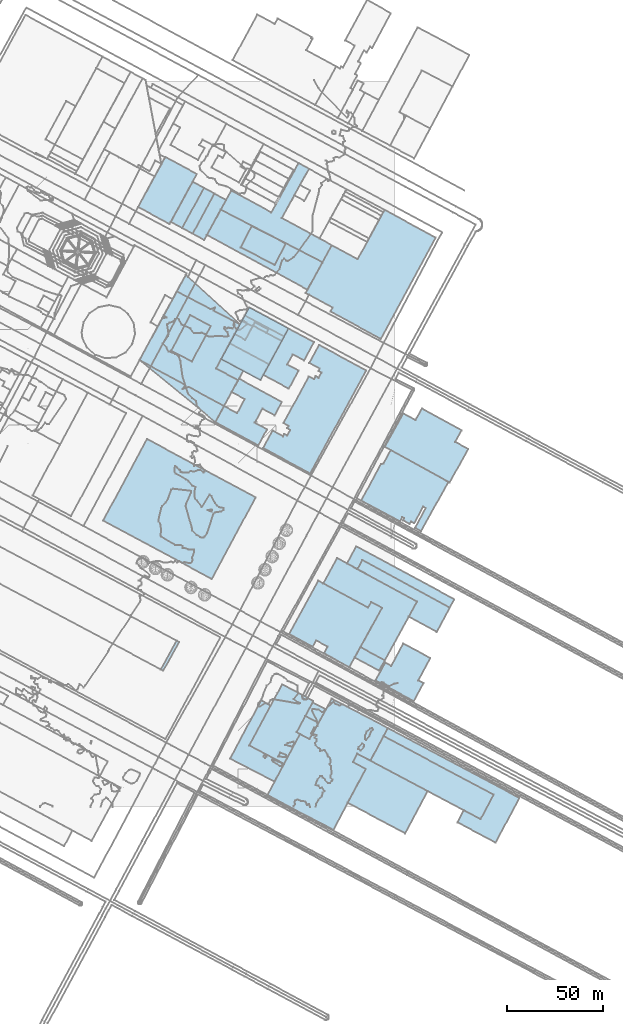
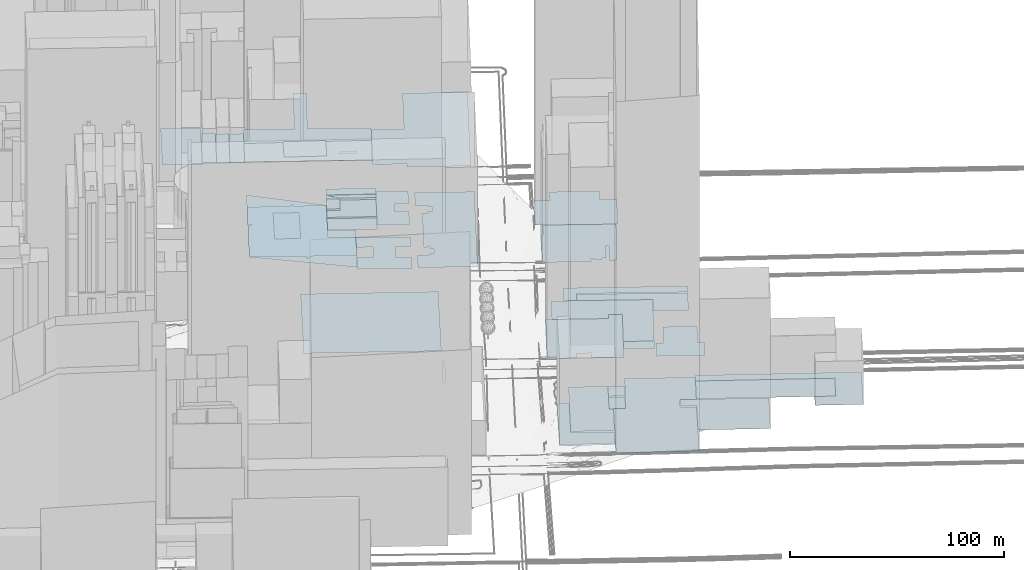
# Not in any storey, part 13 of 80: 39 footings.
"""IFC4 building model written with IfcOpenShell, lengths in metres."""

from ifc_helpers import new_model, si_unit, frame, origin_with_axes, place, context, subcontext, project, spatial, polygons, element, save


model = new_model("IFC4")

# Units and contexts
model_context = context("Model", 3, precision=1e-05, world=origin_with_axes())
body_context = subcontext(model_context, "Body", "Model", "MODEL_VIEW")
ifc_project = project(units=[si_unit("AREAUNIT", "SQUARE_METRE"), si_unit("LENGTHUNIT", "METRE")], contexts=[model_context])

# Sites, building
site_1_placement = place(None, origin_with_axes())
site_1 = spatial("IfcSite", under=ifc_project, at=site_1_placement, Name="Topoexport Site")
site_2_placement = place(site_1_placement, origin_with_axes())
site_2 = spatial("IfcSite", under=site_1, at=site_2_placement, Name="TPX_BATIMENTS")
building_1_placement = place(site_2_placement, frame((366.2645429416, 36.6542156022, 20.5453743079), z_axis=(0.0, 0.0, 1.0), x_axis=(1.0, 0.0, 0.0)))
building_1 = spatial("IfcBuilding", under=site_2, at=building_1_placement, Name="Batiment 0", CompositionType="ELEMENT")

# Footing
footing_1_placement = place(None, frame((366.2645429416, 36.6542156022, 20.5453743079), z_axis=(0.0, 0.0, 1.0), x_axis=(1.0, 0.0, 0.0)))
element("IfcFooting", 1, at=footing_1_placement, inside=building_1, Name="Sol 0", context=body_context, shape_type="Tessellation", body=[
    polygons([(0.0, 0.0, 0.0), (57.6510256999, -30.6476367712, 0.0), (50.7770092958, -43.4731624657, 0.0), (41.9344578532, -38.7800531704, 0.0), (38.741565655, -45.1344526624, 0.0), (58.6609342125, -55.7269742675, 0.0), (71.0847208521, -32.3451003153, 0.0), (2.2468139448, 4.2339315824, 0.0)], [[[2, 1, 8]], [[5, 4, 3]], [[2, 8, 7]], [[6, 5, 3]], [[2, 7, 6]], [[6, 3, 2]]]),
])

# Building
building_2_placement = place(site_2_placement, frame((351.223740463, 77.768312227, 19.2455414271), z_axis=(0.0, 0.0, 1.0), x_axis=(1.0, 0.0, 0.0)))
building_2 = spatial("IfcBuilding", under=site_2, at=building_2_placement, Name="Batiment 1", CompositionType="ELEMENT")

# Footing
footing_2_placement = place(None, frame((351.223740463, 77.768312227, 19.2455414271), z_axis=(0.0, 0.0, 1.0), x_axis=(1.0, 0.0, 0.0)))
element("IfcFooting", 2, at=footing_2_placement, inside=building_2, Name="Sol 0", context=body_context, shape_type="Tessellation", body=[
    polygons([(0.0, 0.0, 0.0), (12.6918312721, -6.868784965, 0.0), (15.6589919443, -1.4274175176, 0.0), (2.9670376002, 5.4524630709, 0.0)], [[[2, 1, 4]], [[4, 3, 2]]]),
])

# Building
building_3_placement = place(site_2_placement, frame((362.0676322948, 65.7598579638, 18.6080020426), z_axis=(0.0, 0.0, 1.0), x_axis=(1.0, 0.0, 0.0)))
building_3 = spatial("IfcBuilding", under=site_2, at=building_3_placement, Name="Batiment 2", CompositionType="ELEMENT")

# Footing
footing_3_placement = place(None, frame((362.0676322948, 65.7598579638, 18.6080020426), z_axis=(0.0, 0.0, 1.0), x_axis=(1.0, 0.0, 0.0)))
element("IfcFooting", 3, at=footing_3_placement, inside=building_3, Name="Sol 0", context=body_context, shape_type="Tessellation", body=[
    polygons([(0.0, 0.0, 0.0), (20.0566144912, -10.8019749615, 0.0), (25.0968062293, -1.4284483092, 0.0), (22.3613697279, 0.0495845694, 0.0), (28.6575999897, 11.7470203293, 0.0), (14.5135056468, 19.3648949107, 0.0), (8.2419351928, 7.7232700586, 0.0), (5.0818940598, 9.4184075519, 0.0)], [[[2, 1, 8]], [[4, 3, 2]], [[6, 5, 4]], [[2, 8, 7]], [[6, 4, 2]], [[2, 7, 6]]]),
])

# Building
building_4_placement = place(site_2_placement, frame((347.1381641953, 127.0369642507, 18.5508047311), z_axis=(0.0, 0.0, 1.0), x_axis=(1.0, 0.0, 0.0)))
building_4 = spatial("IfcBuilding", under=site_2, at=building_4_placement, Name="Batiment 3", CompositionType="ELEMENT")

# Footing
footing_4_placement = place(None, frame((347.1381641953, 127.0369642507, 18.5508047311), z_axis=(0.0, 0.0, 1.0), x_axis=(1.0, 0.0, 0.0)))
element("IfcFooting", 4, at=footing_4_placement, inside=building_4, Name="Sol 0", context=body_context, shape_type="Tessellation", body=[
    polygons([(0.0, 0.0, 0.0), (5.3954967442, -3.0124802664, 0.0), (8.0571999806, 1.8369054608, 0.0), (53.8061372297, -23.131939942, 0.0), (56.1693942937, -18.7523097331, 0.0), (4.9095321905, 8.9945052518, 0.0)], [[[2, 1, 6]], [[5, 4, 3]], [[3, 2, 6]], [[6, 5, 3]]]),
])

# Building
building_5_placement = place(site_2_placement, frame((352.5336609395, 124.0244839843, 18.1637870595), z_axis=(0.0, 0.0, 1.0), x_axis=(1.0, 0.0, 0.0)))
building_5 = spatial("IfcBuilding", under=site_2, at=building_5_placement, Name="Batiment 4", CompositionType="ELEMENT")

# Footing
footing_5_placement = place(None, frame((352.5336609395, 124.0244839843, 18.1637870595), z_axis=(0.0, 0.0, 1.0), x_axis=(1.0, 0.0, 0.0)))
element("IfcFooting", 5, at=footing_5_placement, inside=building_5, Name="Sol 0", context=body_context, shape_type="Tessellation", body=[
    polygons([(0.0, 0.0, 0.0), (31.2631371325, -16.9997120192, 0.0), (26.9895697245, -24.7877841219, 0.0), (41.5765562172, -32.7446614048, 0.0), (48.4106404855, -20.1194596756, 0.0), (2.6617032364, 4.8493857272, 0.0)], [[[2, 1, 6]], [[4, 3, 2]], [[2, 6, 5]], [[5, 4, 2]]]),
])

# Building
building_6_placement = place(site_2_placement, frame((334.7408311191, 116.6007819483, 18.3898649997), z_axis=(0.0, 0.0, 1.0), x_axis=(1.0, 0.0, 0.0)))
building_6 = spatial("IfcBuilding", under=site_2, at=building_6_placement, Name="Batiment 5", CompositionType="ELEMENT")

# Footing
footing_6_placement = place(None, frame((334.7408311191, 116.6007819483, 18.3898649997), z_axis=(0.0, 0.0, 1.0), x_axis=(1.0, 0.0, 0.0)))
element("IfcFooting", 6, at=footing_6_placement, inside=building_6, Name="Sol 0", context=body_context, shape_type="Tessellation", body=[
    polygons([(0.0, 0.0, 0.0), (23.4383723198, -12.7055475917, 0.0), (25.0583062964, -9.7334756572, 0.0), (30.6991136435, -12.7874983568, 0.0), (19.4499469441, -33.3800066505, 0.0), (32.1419012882, -40.259887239, 0.0), (49.0559669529, -9.5760099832, 0.0), (7.2237486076, 13.24030801, 0.0)], [[[2, 1, 8]], [[6, 5, 4]], [[3, 2, 8]], [[7, 6, 4]], [[3, 8, 7]], [[7, 4, 3]]]),
])

# Building
building_7_placement = place(site_2_placement, frame((316.8661601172, 90.1024902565, 18.3898649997), z_axis=(0.0, 0.0, 1.0), x_axis=(1.0, 0.0, 0.0)))
building_7 = spatial("IfcBuilding", under=site_2, at=building_7_placement, Name="Batiment 6", CompositionType="ELEMENT")

# Footing
footing_7_placement = place(None, frame((316.8661601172, 90.1024902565, 18.3898649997), z_axis=(0.0, 0.0, 1.0), x_axis=(1.0, 0.0, 0.0)))
element("IfcFooting", 7, at=footing_7_placement, inside=building_7, Name="Sol 0", context=body_context, shape_type="Tessellation", body=[
    polygons([(0.0, 0.0, 0.0), (12.2588560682, -6.6629415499, 0.0), (14.07724135, -3.3332932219, 0.0), (20.1343500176, -6.6156371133, 0.0), (18.1999973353, -10.1353758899, 0.0), (31.5123618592, -17.3744372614, 0.0), (48.5737846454, 13.710793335, 0.0), (42.9329772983, 16.7648160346, 0.0), (41.3130433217, 13.7927441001, 0.0), (15.300279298, 27.9227073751, 0.0)], [[[2, 1, 10]], [[6, 5, 4]], [[8, 7, 6]], [[3, 2, 10]], [[9, 8, 6]], [[3, 10, 9]], [[9, 6, 4]], [[4, 3, 9]]]),
])

# Building
building_8_placement = place(site_2_placement, frame((325.3175902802, 47.212952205, 19.8238031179), z_axis=(0.0, 0.0, 1.0), x_axis=(1.0, 0.0, 0.0)))
building_8 = spatial("IfcBuilding", under=site_2, at=building_8_placement, Name="Batiment 7", CompositionType="ELEMENT")

# Footing
footing_8_placement = place(None, frame((325.3175902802, 47.212952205, 19.8238031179), z_axis=(0.0, 0.0, 1.0), x_axis=(1.0, 0.0, 0.0)))
element("IfcFooting", 8, at=footing_8_placement, inside=building_8, Name="Sol 0", context=body_context, shape_type="Tessellation", body=[
    polygons([(0.0, 0.0, 0.0), (6.8126112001, -3.6399257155, 0.0), (10.7830119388, 3.3674274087, 0.0), (3.893923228, 7.050867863, 0.0)], [[[2, 1, 4]], [[4, 3, 2]]]),
])

# Building
building_9_placement = place(site_2_placement, frame((320.7317155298, 38.6885317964, 19.3320157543), z_axis=(0.0, 0.0, 1.0), x_axis=(1.0, 0.0, 0.0)))
building_9 = spatial("IfcBuilding", under=site_2, at=building_9_placement, Name="Batiment 8", CompositionType="ELEMENT")

# Footing
footing_9_placement = place(None, frame((320.7317155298, 38.6885317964, 19.3320157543), z_axis=(0.0, 0.0, 1.0), x_axis=(1.0, 0.0, 0.0)))
element("IfcFooting", 9, at=footing_9_placement, inside=building_9, Name="Sol 0", context=body_context, shape_type="Tessellation", body=[
    polygons([(0.0, 0.0, 0.0), (6.8210570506, -3.6398316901, 0.0), (11.3984859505, 4.884494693, 0.0), (4.5858747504, 8.5244204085, 0.0)], [[[2, 1, 4]], [[4, 3, 2]]]),
])

# Building
building_10_placement = place(site_2_placement, frame((295.9848400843, 31.8056900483, 19.3320157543), z_axis=(0.0, 0.0, 1.0), x_axis=(1.0, 0.0, 0.0)))
building_10 = spatial("IfcBuilding", under=site_2, at=building_10_placement, Name="Batiment 9", CompositionType="ELEMENT")

# Footing
footing_10_placement = place(None, frame((295.9848400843, 31.8056900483, 19.3320157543), z_axis=(0.0, 0.0, 1.0), x_axis=(1.0, 0.0, 0.0)))
element("IfcFooting", 10, at=footing_10_placement, inside=building_10, Name="Sol 0", context=body_context, shape_type="Tessellation", body=[
    polygons([(0.0, 0.0, 0.0), (18.152605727, -9.6807885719, 0.0), (26.5646548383, 5.9159065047, 0.0), (24.7468754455, 6.8828417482, 0.0), (33.5466758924, 23.2501167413, 0.0), (17.2118998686, 31.9639296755, 0.0)], [[[2, 1, 6]], [[4, 3, 2]], [[6, 5, 4]], [[4, 2, 6]]]),
])

# Building
building_11_placement = place(site_2_placement, frame((286.0454970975, 24.8510106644, 18.703520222), z_axis=(0.0, 0.0, 1.0), x_axis=(1.0, 0.0, 0.0)))
building_11 = spatial("IfcBuilding", under=site_2, at=building_11_placement, Name="Batiment 10", CompositionType="ELEMENT")

# Footing
footing_11_placement = place(None, frame((286.0454970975, 24.8510106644, 18.703520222), z_axis=(0.0, 0.0, 1.0), x_axis=(1.0, 0.0, 0.0)))
element("IfcFooting", 11, at=footing_11_placement, inside=building_11, Name="Sol 0", context=body_context, shape_type="Tessellation", body=[
    polygons([(0.0, 0.0, 0.0), (23.1269540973, -12.0431954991, 0.0), (28.0919487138, -2.7261091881, 0.0), (9.9393429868, 6.9546793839, 0.0), (21.1440946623, 27.7575168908, 0.0), (16.1055235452, 30.5632428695, 0.0)], [[[3, 2, 1]], [[6, 5, 4]], [[4, 3, 1]], [[1, 6, 4]]]),
])

# Building
building_12_placement = place(site_2_placement, frame((305.3985923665, 5.5918232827, 19.5472220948), z_axis=(0.0, 0.0, 1.0), x_axis=(1.0, 0.0, 0.0)))
building_12 = spatial("IfcBuilding", under=site_2, at=building_12_placement, Name="Batiment 11", CompositionType="ELEMENT")

# Footing
footing_12_placement = place(None, frame((305.3985923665, 5.5918232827, 19.5472220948), z_axis=(0.0, 0.0, 1.0), x_axis=(1.0, 0.0, 0.0)))
element("IfcFooting", 12, at=footing_12_placement, inside=building_12, Name="Sol 0", context=body_context, shape_type="Tessellation", body=[
    polygons([(0.0, 0.0, 0.0), (34.6180123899, -17.9933581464, 0.0), (51.5516846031, 13.93412623, 0.0), (44.841101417, 17.5086047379, 0.0), (47.1626007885, 21.8544235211, 0.0), (53.9919956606, 18.2258198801, 0.0), (63.1127645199, 35.296323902, 0.0), (33.8269836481, 50.6537947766, 0.0), (22.1541802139, 29.4568768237, 0.0), (17.1509025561, 32.1297732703, 0.0)], [[[2, 1, 10]], [[4, 3, 2]], [[7, 6, 5]], [[9, 8, 7]], [[2, 10, 9]], [[9, 7, 5]], [[4, 2, 9]], [[9, 5, 4]]]),
])

# Building
building_13_placement = place(site_2_placement, frame((347.4572556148, 1.796092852, 20.3614833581), z_axis=(0.0, 0.0, 1.0), x_axis=(1.0, 0.0, 0.0)))
building_13 = spatial("IfcBuilding", under=site_2, at=building_13_placement, Name="Batiment 12", CompositionType="ELEMENT")

# Footing
footing_13_placement = place(None, frame((347.4572556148, 1.796092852, 20.3614833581), z_axis=(0.0, 0.0, 1.0), x_axis=(1.0, 0.0, 0.0)))
element("IfcFooting", 13, at=footing_13_placement, inside=building_13, Name="Sol 0", context=body_context, shape_type="Tessellation", body=[
    polygons([(0.0, 0.0, 0.0), (30.0699170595, -15.9811361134, 0.0), (41.8928147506, 6.0946882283, 0.0), (5.1039375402, 25.6501539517, 0.0), (2.7824381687, 21.3043351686, 0.0), (9.4930213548, 17.7298566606, 0.0)], [[[2, 1, 6]], [[4, 3, 2]], [[6, 5, 4]], [[4, 2, 6]]]),
])

# Building
building_14_placement = place(site_2_placement, frame((359.3905880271, 23.8176431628, 20.6359845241), z_axis=(0.0, 0.0, 1.0), x_axis=(1.0, 0.0, 0.0)))
building_14 = spatial("IfcBuilding", under=site_2, at=building_14_placement, Name="Batiment 13", CompositionType="ELEMENT")

# Footing
footing_14_placement = place(None, frame((359.3905880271, 23.8176431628, 20.6359845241), z_axis=(0.0, 0.0, 1.0), x_axis=(1.0, 0.0, 0.0)))
element("IfcFooting", 14, at=footing_14_placement, inside=building_14, Name="Sol 0", context=body_context, shape_type="Tessellation", body=[
    polygons([(0.0, 0.0, 0.0), (57.6509642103, -30.6365900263, 0.0), (64.5249806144, -17.8110643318, 0.0), (6.8739549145, 12.8365724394, 0.0)], [[[2, 1, 4]], [[4, 3, 2]]]),
])

# Building
building_15_placement = place(site_2_placement, frame((249.6836035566, 71.5902685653, 39.4467245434), z_axis=(0.0, 0.0, 1.0), x_axis=(1.0, 0.0, 0.0)))
building_15 = spatial("IfcBuilding", under=site_2, at=building_15_placement, Name="Batiment 39", CompositionType="ELEMENT")

# Footing
footing_15_placement = place(None, frame((249.6836035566, 71.5902685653, 39.4467245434), z_axis=(0.0, 0.0, 1.0), x_axis=(1.0, 0.0, 0.0)))
element("IfcFooting", 15, at=footing_15_placement, inside=building_15, Name="Sol 0", context=body_context, shape_type="Tessellation", body=[
    polygons([(0.0, 0.0, 0.0), (1.2910926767, -0.6844212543, 0.0), (9.6089023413, 14.3115828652, 0.0), (8.3176822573, 15.0071034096, 0.0)], [[[2, 1, 4]], [[4, 3, 2]]]),
])

# Building
building_16_placement = place(site_2_placement, frame((219.5112298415, 149.4213804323, 19.4237571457), z_axis=(0.0, 0.0, 1.0), x_axis=(1.0, 0.0, 0.0)))
building_16 = spatial("IfcBuilding", under=site_2, at=building_16_placement, Name="Batiment 40", CompositionType="ELEMENT")

# Footing
footing_16_placement = place(None, frame((219.5112298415, 149.4213804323, 19.4237571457), z_axis=(0.0, 0.0, 1.0), x_axis=(1.0, 0.0, 0.0)))
element("IfcFooting", 16, at=footing_16_placement, inside=building_16, Name="Sol 0", context=body_context, shape_type="Tessellation", body=[
    polygons([(0.0, 0.0, 0.0), (56.8882083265, -30.5132920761, 0.0), (79.8162954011, 12.2086158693, 0.0), (22.9281798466, 42.7328309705, 0.0)], [[[2, 1, 4]], [[4, 3, 2]]]),
])

# Building
building_17_placement = place(site_2_placement, frame((238.5657352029, 233.4317503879, 16.8303387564), z_axis=(0.0, 0.0, 1.0), x_axis=(1.0, 0.0, 0.0)))
building_17 = spatial("IfcBuilding", under=site_2, at=building_17_placement, Name="Batiment 124", CompositionType="ELEMENT")

# Footing
footing_17_placement = place(None, frame((238.5657352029, 233.4317503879, 16.8303387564), z_axis=(0.0, 0.0, 1.0), x_axis=(1.0, 0.0, 0.0)))
element("IfcFooting", 17, at=footing_17_placement, inside=building_17, Name="Sol 0", context=body_context, shape_type="Tessellation", body=[
    polygons([(0.0, 0.0, 0.0), (39.6892356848, -32.423071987, 0.0), (54.2336192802, -5.5639508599, 0.0), (42.7234641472, 0.6192596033, 0.0), (52.5160379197, 18.7078011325, 0.0), (24.1716147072, 44.6569637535, 0.0)], [[[2, 1, 6]], [[4, 3, 2]], [[6, 5, 4]], [[4, 2, 6]]]),
])

# Building
building_18_placement = place(site_2_placement, frame((238.5657352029, 233.4317503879, 16.8288003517), z_axis=(0.0, 0.0, 1.0), x_axis=(1.0, 0.0, 0.0)))
building_18 = spatial("IfcBuilding", under=site_2, at=building_18_placement, Name="Batiment 125", CompositionType="ELEMENT")

# Footing
footing_18_placement = place(None, frame((238.5657352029, 233.4317503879, 16.8288003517), z_axis=(0.0, 0.0, 1.0), x_axis=(1.0, 0.0, 0.0)))
element("IfcFooting", 18, at=footing_18_placement, inside=building_18, Name="Sol 0", context=body_context, shape_type="Tessellation", body=[
    polygons([(0.0, 0.0, 0.0), (23.8036133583, -12.9458392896, 0.0), (22.5444502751, -15.0033068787, 0.0), (25.6386092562, -13.9458941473, 0.0), (44.2262175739, -24.0546749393, 0.0), (51.6324175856, -10.5347354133, 0.0), (40.0549929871, -4.3745082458, 0.0), (52.5160379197, 18.7078011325, 0.0), (38.7491765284, 25.8639517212, 0.0), (39.5570742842, 27.5275912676, 0.0), (37.0929847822, 26.7328570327, 0.0), (19.5537404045, 35.9878752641, 0.0), (12.610114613, 23.3393253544, 0.0), (14.2581221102, 22.4481148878, 0.0), (11.841957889, 21.887094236, 0.0)], [[[2, 1, 15]], [[4, 3, 2]], [[6, 5, 4]], [[9, 8, 7]], [[11, 10, 9]], [[13, 12, 11]], [[2, 15, 14]], [[6, 4, 2]], [[11, 9, 7]], [[14, 13, 11]], [[7, 6, 2]], [[14, 11, 7]], [[7, 2, 14]]]),
])

# Building
building_19_placement = place(site_2_placement, frame((255.1464477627, 238.3653204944, 18.4349327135), z_axis=(0.0, 0.0, 1.0), x_axis=(1.0, 0.0, 0.0)))
building_19 = spatial("IfcBuilding", under=site_2, at=building_19_placement, Name="Batiment 126", CompositionType="ELEMENT")

# Footing
footing_19_placement = place(None, frame((255.1464477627, 238.3653204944, 18.4349327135), z_axis=(0.0, 0.0, 1.0), x_axis=(1.0, 0.0, 0.0)))
element("IfcFooting", 19, at=footing_19_placement, inside=building_19, Name="Sol 0", context=body_context, shape_type="Tessellation", body=[
    polygons([(0.0, 0.0, 0.0), (10.8206467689, -5.6916724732, 0.0), (20.6914610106, 12.9306667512, 0.0), (9.8708329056, 18.6223246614, 0.0)], [[[2, 1, 4]], [[4, 3, 2]]]),
])

# Building
building_20_placement = place(site_2_placement, frame((281.2891993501, 234.0510099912, 16.9743140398), z_axis=(0.0, 0.0, 1.0), x_axis=(1.0, 0.0, 0.0)))
building_20 = spatial("IfcBuilding", under=site_2, at=building_20_placement, Name="Batiment 127", CompositionType="ELEMENT")

# Footing
footing_20_placement = place(None, frame((281.2891993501, 234.0510099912, 16.9743140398), z_axis=(0.0, 0.0, 1.0), x_axis=(1.0, 0.0, 0.0)))
element("IfcFooting", 20, at=footing_20_placement, inside=building_20, Name="Sol 0", context=body_context, shape_type="Tessellation", body=[
    polygons([(0.0, 0.0, 0.0), (20.548297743, -11.0296043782, 0.0), (24.9775825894, -2.8400815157, 0.0), (4.43774046, 8.1896087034, 0.0)], [[[2, 1, 4]], [[4, 3, 2]]]),
])

# Building
building_21_placement = place(site_2_placement, frame((288.3298169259, 247.0670920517, 18.7313016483), z_axis=(0.0, 0.0, 1.0), x_axis=(1.0, 0.0, 0.0)))
building_21 = spatial("IfcBuilding", under=site_2, at=building_21_placement, Name="Batiment 128", CompositionType="ELEMENT")

# Footing
footing_21_placement = place(None, frame((288.3298169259, 247.0670920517, 18.7313016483), z_axis=(0.0, 0.0, 1.0), x_axis=(1.0, 0.0, 0.0)))
element("IfcFooting", 21, at=footing_21_placement, inside=building_21, Name="Sol 0", context=body_context, shape_type="Tessellation", body=[
    polygons([(0.0, 0.0, 0.0), (5.5893839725, -2.9991613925, 0.0), (9.3741480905, 3.9949121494, 0.0), (3.7847676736, 6.9940706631, 0.0)], [[[2, 1, 4]], [[4, 3, 2]]]),
])

# Building
building_22_placement = place(site_2_placement, frame((266.3530254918, 299.6136626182, 20.7337095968), z_axis=(0.0, 0.0, 1.0), x_axis=(1.0, 0.0, 0.0)))
building_22 = spatial("IfcBuilding", under=site_2, at=building_22_placement, Name="Batiment 129", CompositionType="ELEMENT")

# Footing
footing_22_placement = place(None, frame((266.3530254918, 299.6136626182, 20.7337095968), z_axis=(0.0, 0.0, 1.0), x_axis=(1.0, 0.0, 0.0)))
element("IfcFooting", 22, at=footing_22_placement, inside=building_22, Name="Sol 0", context=body_context, shape_type="Tessellation", body=[
    polygons([(0.0, 0.0, 0.0), (6.0824874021, -3.3043014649, 0.0), (17.4959425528, 17.6674815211, 0.0), (11.3880168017, 20.9825795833, 0.0)], [[[2, 1, 4]], [[4, 3, 2]]]),
])

# Building
building_23_placement = place(site_2_placement, frame((273.8050706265, 299.0342517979, 19.0727612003), z_axis=(0.0, 0.0, 1.0), x_axis=(1.0, 0.0, 0.0)))
building_23 = spatial("IfcBuilding", under=site_2, at=building_23_placement, Name="Batiment 130", CompositionType="ELEMENT")

# Footing
footing_23_placement = place(None, frame((273.8050706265, 299.0342517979, 19.0727612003), z_axis=(0.0, 0.0, 1.0), x_axis=(1.0, 0.0, 0.0)))
element("IfcFooting", 23, at=footing_23_placement, inside=building_23, Name="Sol 0", context=body_context, shape_type="Tessellation", body=[
    polygons([(0.0, 0.0, 0.0), (52.5953372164, -28.7420789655, 0.0), (65.4084536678, -5.4668426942, 0.0), (39.2593969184, 8.8281193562, 0.0), (53.4200569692, 34.5393207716, 0.0), (47.9405768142, 37.5286335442, 0.0), (33.7387369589, 11.728145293, 0.0), (12.77205858, 23.1858472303, 0.0)], [[[2, 1, 8]], [[4, 3, 2]], [[6, 5, 4]], [[2, 8, 7]], [[7, 6, 4]], [[4, 2, 7]]]),
])

# Building
building_24_placement = place(site_2_placement, frame((291.481800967, 292.4676192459, 19.6985343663), z_axis=(0.0, 0.0, 1.0), x_axis=(1.0, 0.0, 0.0)))
building_24 = spatial("IfcBuilding", under=site_2, at=building_24_placement, Name="Batiment 131", CompositionType="ELEMENT")

# Footing
footing_24_placement = place(None, frame((291.481800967, 292.4676192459, 19.6985343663), z_axis=(0.0, 0.0, 1.0), x_axis=(1.0, 0.0, 0.0)))
element("IfcFooting", 24, at=footing_24_placement, inside=building_24, Name="Sol 0", context=body_context, shape_type="Tessellation", body=[
    polygons([(0.0, 0.0, 0.0), (17.8254281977, -9.1849936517, 0.0), (23.6378591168, 2.0071491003, 0.0), (5.7876459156, 11.1474308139, 0.0)], [[[2, 1, 4]], [[4, 3, 2]]]),
])

# Building
building_25_placement = place(site_2_placement, frame((273.8050706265, 299.0342517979, 19.1231456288), z_axis=(0.0, 0.0, 1.0), x_axis=(1.0, 0.0, 0.0)))
building_25 = spatial("IfcBuilding", under=site_2, at=building_25_placement, Name="Batiment 132", CompositionType="ELEMENT")

# Footing
footing_25_placement = place(None, frame((273.8050706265, 299.0342517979, 19.1231456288), z_axis=(0.0, 0.0, 1.0), x_axis=(1.0, 0.0, 0.0)))
element("IfcFooting", 25, at=footing_25_placement, inside=building_25, Name="Sol 0", context=body_context, shape_type="Tessellation", body=[
    polygons([(0.0, 0.0, 0.0), (52.5953372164, -28.7420789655, 0.0), (60.4982423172, -14.3947384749, 0.0), (7.2580721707, 13.1851425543, 0.0)], [[[2, 1, 4]], [[4, 3, 2]]]),
])

# Building
building_26_placement = place(site_2_placement, frame((325.5761584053, 268.583928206, 18.0179124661), z_axis=(0.0, 0.0, 1.0), x_axis=(1.0, 0.0, 0.0)))
building_26 = spatial("IfcBuilding", under=site_2, at=building_26_placement, Name="Batiment 137", CompositionType="ELEMENT")

# Footing
footing_26_placement = place(None, frame((325.5761584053, 268.583928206, 18.0179124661), z_axis=(0.0, 0.0, 1.0), x_axis=(1.0, 0.0, 0.0)))
element("IfcFooting", 26, at=footing_26_placement, inside=building_26, Name="Sol 0", context=body_context, shape_type="Tessellation", body=[
    polygons([(0.0, 0.0, 0.0), (14.076432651, -7.6409558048, 0.0), (12.9441609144, -9.7191640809, 0.0), (39.2536749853, -24.0010695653, 0.0), (68.012848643, 28.9476731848, 0.0), (41.1936839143, 43.5121951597, 0.0), (27.1697109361, 17.669281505, 0.0), (13.637365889, 24.9834808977, 0.0)], [[[2, 1, 8]], [[4, 3, 2]], [[6, 5, 4]], [[2, 8, 7]], [[6, 4, 2]], [[2, 7, 6]]]),
])

# Building
building_27_placement = place(site_2_placement, frame((297.9268132, 251.4975866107, 44.1625825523), z_axis=(0.0, 0.0, 1.0), x_axis=(1.0, 0.0, 0.0)))
building_27 = spatial("IfcBuilding", under=site_2, at=building_27_placement, Name="Batiment 138", CompositionType="ELEMENT")

# Footing
footing_27_placement = place(None, frame((297.9268132, 251.4975866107, 44.1625825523), z_axis=(0.0, 0.0, 1.0), x_axis=(1.0, 0.0, 0.0)))
element("IfcFooting", 27, at=footing_27_placement, inside=building_27, Name="Sol 0", context=body_context, shape_type="Tessellation", body=[
    polygons([(0.0, 0.0, 0.0), (7.1354708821, -3.8360285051, 0.0), (8.0608818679, -2.115506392, 0.0), (0.933852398, 1.7206194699, 0.0)], [[[2, 1, 4]], [[4, 3, 2]]]),
])

# Building
building_28_placement = place(site_2_placement, frame((293.6269824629, 256.8432308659, 18.9579737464), z_axis=(0.0, 0.0, 1.0), x_axis=(1.0, 0.0, 0.0)))
building_28 = spatial("IfcBuilding", under=site_2, at=building_28_placement, Name="Batiment 139", CompositionType="ELEMENT")

# Footing
footing_28_placement = place(None, frame((293.6269824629, 256.8432308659, 18.9579737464), z_axis=(0.0, 0.0, 1.0), x_axis=(1.0, 0.0, 0.0)))
element("IfcFooting", 28, at=footing_28_placement, inside=building_28, Name="Sol 0", context=body_context, shape_type="Tessellation", body=[
    polygons([(0.0, 0.0, 0.0), (20.5398148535, -11.0296681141, 0.0), (22.8372318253, -6.7951607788, 0.0), (2.2972956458, 4.2456016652, 0.0)], [[[2, 1, 4]], [[4, 3, 2]]]),
])

# Building
building_29_placement = place(site_2_placement, frame((292.1145845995, 254.0611627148, 18.8063007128), z_axis=(0.0, 0.0, 1.0), x_axis=(1.0, 0.0, 0.0)))
building_29 = spatial("IfcBuilding", under=site_2, at=building_29_placement, Name="Batiment 140", CompositionType="ELEMENT")

# Footing
footing_29_placement = place(None, frame((292.1145845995, 254.0611627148, 18.8063007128), z_axis=(0.0, 0.0, 1.0), x_axis=(1.0, 0.0, 0.0)))
element("IfcFooting", 29, at=footing_29_placement, inside=building_29, Name="Sol 0", context=body_context, shape_type="Tessellation", body=[
    polygons([(0.0, 0.0, 0.0), (5.5893804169, -2.9991585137, 0.0), (5.8122286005, -2.5635761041, 0.0), (20.7796774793, -10.6049936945, 0.0), (22.0522127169, -8.2475999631, 0.0), (1.5123978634, 2.782068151, 0.0)], [[[2, 1, 6]], [[5, 4, 3]], [[3, 2, 6]], [[6, 5, 3]]]),
])

# Building
building_30_placement = place(site_2_placement, frame((285.7269398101, 242.2406186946, 17.7274277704), z_axis=(0.0, 0.0, 1.0), x_axis=(1.0, 0.0, 0.0)))
building_30 = spatial("IfcBuilding", under=site_2, at=building_30_placement, Name="Batiment 141", CompositionType="ELEMENT")

# Footing
footing_30_placement = place(None, frame((285.7269398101, 242.2406186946, 17.7274277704), z_axis=(0.0, 0.0, 1.0), x_axis=(1.0, 0.0, 0.0)))
element("IfcFooting", 30, at=footing_30_placement, inside=building_30, Name="Sol 0", context=body_context, shape_type="Tessellation", body=[
    polygons([(0.0, 0.0, 0.0), (20.5398421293, -11.0296902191, 0.0), (27.1673222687, 1.2155503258, 0.0), (12.1998733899, 9.2569679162, 0.0), (8.1922610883, 1.8273119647, 0.0), (2.6028771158, 4.8264733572, 0.0)], [[[2, 1, 6]], [[4, 3, 2]], [[2, 6, 5]], [[5, 4, 2]]]),
])

# Building
building_31_placement = place(site_2_placement, frame((281.2891993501, 234.0510099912, 16.9743140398), z_axis=(0.0, 0.0, 1.0), x_axis=(1.0, 0.0, 0.0)))
building_31 = spatial("IfcBuilding", under=site_2, at=building_31_placement, Name="Batiment 142", CompositionType="ELEMENT")

# Footing
footing_31_placement = place(None, frame((281.2891993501, 234.0510099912, 16.9743140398), z_axis=(0.0, 0.0, 1.0), x_axis=(1.0, 0.0, 0.0)))
element("IfcFooting", 31, at=footing_31_placement, inside=building_31, Name="Sol 0", context=body_context, shape_type="Tessellation", body=[
    polygons([(0.0, 0.0, 0.0), (20.548297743, -11.0296043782, 0.0), (35.1750149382, 15.9970600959, 0.0), (14.6350787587, 27.0378225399, 0.0)], [[[2, 1, 4]], [[4, 3, 2]]]),
])

# Building
building_32_placement = place(site_2_placement, frame((303.3084719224, 225.7363797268, 17.1584864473), z_axis=(0.0, 0.0, 1.0), x_axis=(1.0, 0.0, 0.0)))
building_32 = spatial("IfcBuilding", under=site_2, at=building_32_placement, Name="Batiment 143", CompositionType="ELEMENT")

# Footing
footing_32_placement = place(None, frame((303.3084719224, 225.7363797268, 17.1584864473), z_axis=(0.0, 0.0, 1.0), x_axis=(1.0, 0.0, 0.0)))
element("IfcFooting", 32, at=footing_32_placement, inside=building_32, Name="Sol 0", context=body_context, shape_type="Tessellation", body=[
    polygons([(0.0, 0.0, 0.0), (13.3627175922, -7.2385258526, 0.0), (18.4944225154, 2.2470477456, 0.0), (12.598836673, 5.4424640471, 0.0), (15.4662305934, 10.7494256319, 0.0), (21.3872638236, 7.5432057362, 0.0), (26.5521917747, 17.0735816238, 0.0), (13.1557423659, 24.3116903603, 0.0)], [[[3, 2, 1]], [[7, 6, 5]], [[4, 3, 1]], [[8, 7, 5]], [[4, 1, 8]], [[8, 5, 4]]]),
])

# Building
building_33_placement = place(site_2_placement, frame((278.2549708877, 201.0086784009, 15.6757471), z_axis=(0.0, 0.0, 1.0), x_axis=(1.0, 0.0, 0.0)))
building_33 = spatial("IfcBuilding", under=site_2, at=building_33_placement, Name="Batiment 144", CompositionType="ELEMENT")

# Footing
footing_33_placement = place(None, frame((278.2549708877, 201.0086784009, 15.6757471), z_axis=(0.0, 0.0, 1.0), x_axis=(1.0, 0.0, 0.0)))
element("IfcFooting", 33, at=footing_33_placement, inside=building_33, Name="Sol 0", context=body_context, shape_type="Tessellation", body=[
    polygons([(0.0, 0.0, 0.0), (22.4777859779, -12.1617877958, 0.0), (27.0063104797, -3.7934751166, 0.0), (20.6180660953, -0.3373262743, 0.0), (24.609593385, 7.0255305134, 0.0), (30.9978335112, 3.5693851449, 0.0), (34.7826050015, 10.5634660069, 0.0), (12.3131764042, 22.7364151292, 0.0), (8.5200795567, 15.7311468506, 0.0), (15.3500450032, 12.0358801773, 0.0), (11.3669518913, 4.6731266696, 0.0), (4.536981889, 8.3683970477, 0.0)], [[[2, 1, 12]], [[4, 3, 2]], [[7, 6, 5]], [[9, 8, 7]], [[2, 12, 11]], [[10, 9, 7]], [[2, 11, 10]], [[10, 7, 5]], [[4, 2, 10]], [[10, 5, 4]]]),
])

# Building
building_34_placement = place(site_2_placement, frame((303.2307671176, 187.4548822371, 16.0810150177), z_axis=(0.0, 0.0, 1.0), x_axis=(1.0, 0.0, 0.0)))
building_34 = spatial("IfcBuilding", under=site_2, at=building_34_placement, Name="Batiment 145", CompositionType="ELEMENT")

# Footing
footing_34_placement = place(None, frame((303.2307671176, 187.4548822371, 16.0810150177), z_axis=(0.0, 0.0, 1.0), x_axis=(1.0, 0.0, 0.0)))
element("IfcFooting", 34, at=footing_34_placement, inside=building_34, Name="Sol 0", context=body_context, shape_type="Tessellation", body=[
    polygons([(0.0, 0.0, 0.0), (24.6276355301, -13.3690300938, 0.0), (53.9161640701, 40.5627141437, 0.0), (29.2885192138, 53.9427467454, 0.0), (24.1811245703, 44.5462660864, 0.0), (29.6519839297, 41.5790599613, 0.0), (28.9577343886, 40.3053169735, 0.0), (30.5208380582, 39.4575443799, 0.0), (29.0497451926, 36.7536647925, 0.0), (27.4866411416, 37.6014376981, 0.0), (26.6272039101, 36.0149079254, 0.0), (23.9513070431, 37.4603469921, 0.0), (10.6788082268, 13.0251545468, 0.0), (13.3548402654, 11.5686098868, 0.0), (12.6853890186, 10.3395664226, 0.0), (14.2400565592, 9.4916920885, 0.0), (12.6699936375, 6.5868231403, 0.0), (11.140776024, 7.4238918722, 0.0), (10.4549602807, 6.1502490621, 0.0), (4.9585038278, 9.1393762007, 0.0)], [[[2, 1, 20]], [[5, 4, 3]], [[8, 7, 6]], [[11, 10, 9]], [[13, 12, 11]], [[16, 15, 14]], [[19, 18, 17]], [[2, 20, 19]], [[6, 5, 3]], [[13, 11, 9]], [[2, 19, 17]], [[8, 6, 3]], [[14, 13, 9]], [[2, 17, 16]], [[8, 3, 2]], [[16, 14, 9]], [[8, 2, 16]], [[16, 9, 8]]]),
])

# Building
building_35_placement = place(site_2_placement, frame((354.5806057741, 159.9086306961, 17.7443665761), z_axis=(0.0, 0.0, 1.0), x_axis=(1.0, 0.0, 0.0)))
building_35 = spatial("IfcBuilding", under=site_2, at=building_35_placement, Name="Batiment 146", CompositionType="ELEMENT")

# Footing
footing_35_placement = place(None, frame((354.5806057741, 159.9086306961, 17.7443665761), z_axis=(0.0, 0.0, 1.0), x_axis=(1.0, 0.0, 0.0)))
element("IfcFooting", 35, at=footing_35_placement, inside=building_35, Name="Sol 0", context=body_context, shape_type="Tessellation", body=[
    polygons([(0.0, 0.0, 0.0), (20.2430773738, -10.8886351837, 0.0), (21.4989884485, -8.5536292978, 0.0), (22.5353152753, -9.1077698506, 0.0), (21.8992428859, -10.3031231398, 0.0), (25.339599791, -12.150421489, 0.0), (26.0172271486, -10.8990723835, 0.0), (27.7331858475, -11.8227699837, 0.0), (32.40982227, -3.1307145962, 0.0), (33.7605140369, -3.8588264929, 0.0), (28.183275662, -14.2267162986, 0.0), (31.3347213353, -15.9108444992, 0.0), (45.6136333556, 9.8018659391, 0.0), (15.4436623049, 26.458968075, 0.0), (11.6676290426, 19.4427545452, 0.0), (10.3118314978, 19.1605049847, 0.0)], [[[2, 1, 16]], [[6, 5, 4]], [[9, 8, 7]], [[12, 11, 10]], [[15, 14, 13]], [[2, 16, 15]], [[7, 6, 4]], [[13, 12, 10]], [[3, 2, 15]], [[7, 4, 3]], [[13, 10, 9]], [[3, 15, 13]], [[9, 7, 3]], [[3, 13, 9]]]),
])

# Building
building_36_placement = place(site_2_placement, frame((366.8637568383, 188.1071389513, 17.7938249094), z_axis=(0.0, 0.0, 1.0), x_axis=(1.0, 0.0, 0.0)))
building_36 = spatial("IfcBuilding", under=site_2, at=building_36_placement, Name="Batiment 147", CompositionType="ELEMENT")

# Footing
footing_36_placement = place(None, frame((366.8637568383, 188.1071389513, 17.7938249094), z_axis=(0.0, 0.0, 1.0), x_axis=(1.0, 0.0, 0.0)))
element("IfcFooting", 36, at=footing_36_placement, inside=building_36, Name="Sol 0", context=body_context, shape_type="Tessellation", body=[
    polygons([(0.0, 0.0, 0.0), (33.9506416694, -18.7335846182, 0.0), (43.7072874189, -1.2004133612, 0.0), (36.8338707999, 2.5941615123, 0.0), (40.1741687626, 8.6061127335, 0.0), (19.4860618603, 20.0223811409, 0.0), (16.0878345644, 13.9098440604, 0.0), (9.6986507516, 17.4436317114, 0.0)], [[[2, 1, 8]], [[4, 3, 2]], [[6, 5, 4]], [[2, 8, 7]], [[6, 4, 2]], [[2, 7, 6]]]),
])

# Building
building_37_placement = place(site_2_placement, frame((237.8104708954, 313.5923738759, 21.0660999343), z_axis=(0.0, 0.0, 1.0), x_axis=(1.0, 0.0, 0.0)))
building_37 = spatial("IfcBuilding", under=site_2, at=building_37_placement, Name="Batiment 246", CompositionType="ELEMENT")

# Footing
footing_37_placement = place(None, frame((237.8104708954, 313.5923738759, 21.0660999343), z_axis=(0.0, 0.0, 1.0), x_axis=(1.0, 0.0, 0.0)))
element("IfcFooting", 37, at=footing_37_placement, inside=building_37, Name="Sol 0", context=body_context, shape_type="Tessellation", body=[
    polygons([(0.0, 0.0, 0.0), (16.4722872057, -8.9788194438, 0.0), (30.7199253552, 17.2550822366, 0.0), (14.205605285, 26.2222779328, 0.0)], [[[2, 1, 4]], [[4, 3, 2]]]),
])

# Building
building_38_placement = place(site_2_placement, frame((254.9357161, 305.8090938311, 21.0647084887), z_axis=(0.0, 0.0, 1.0), x_axis=(1.0, 0.0, 0.0)))
building_38 = spatial("IfcBuilding", under=site_2, at=building_38_placement, Name="Batiment 264", CompositionType="ELEMENT")

# Footing
footing_38_placement = place(None, frame((254.9357161, 305.8090938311, 21.0647084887), z_axis=(0.0, 0.0, 1.0), x_axis=(1.0, 0.0, 0.0)))
element("IfcFooting", 38, at=footing_38_placement, inside=building_38, Name="Sol 0", context=body_context, shape_type="Tessellation", body=[
    polygons([(0.0, 0.0, 0.0), (5.9380887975, -3.2282750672, 0.0), (17.3345562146, 17.7543942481, 0.0), (11.3880384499, 20.9825618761, 0.0)], [[[2, 1, 4]], [[4, 3, 2]]]),
])

# Building
building_39_placement = place(site_2_placement, frame((260.8738048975, 302.5808187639, 20.8605523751), z_axis=(0.0, 0.0, 1.0), x_axis=(1.0, 0.0, 0.0)))
building_39 = spatial("IfcBuilding", under=site_2, at=building_39_placement, Name="Batiment 265", CompositionType="ELEMENT")

# Footing
footing_39_placement = place(None, frame((260.8738048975, 302.5808187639, 20.8605523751), z_axis=(0.0, 0.0, 1.0), x_axis=(1.0, 0.0, 0.0)))
element("IfcFooting", 39, at=footing_39_placement, inside=building_39, Name="Sol 0", context=body_context, shape_type="Tessellation", body=[
    polygons([(0.0, 0.0, 0.0), (5.4792205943, -2.9671561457, 0.0), (16.867237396, 18.0154234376, 0.0), (11.3964674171, 20.9826693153, 0.0)], [[[2, 1, 4]], [[4, 3, 2]]]),
])

save(model, "model.ifc")
